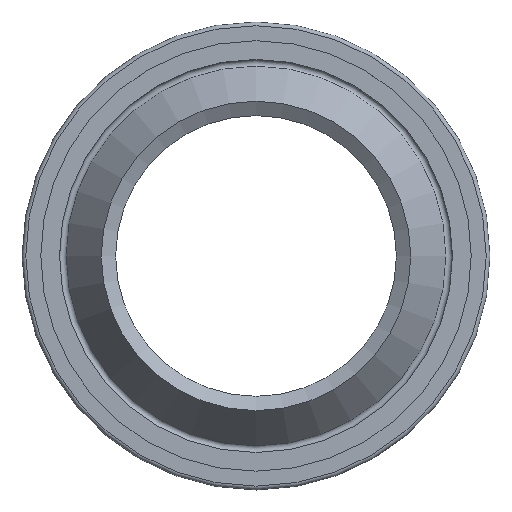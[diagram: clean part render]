
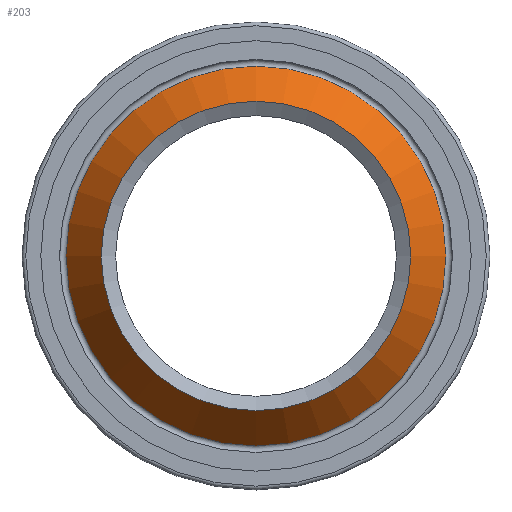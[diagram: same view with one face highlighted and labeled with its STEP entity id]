
A CAD part, top view. The second image highlights one B-rep face of the part: STEP entity #203.
In plain terms, the highlighted conical face has half-angle 37.569 degrees and reference radius 9.385 mm.
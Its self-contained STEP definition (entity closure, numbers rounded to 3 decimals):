
#15=CONICAL_SURFACE('',#252,9.385,0.656);
#27=LINE('',#376,#35);
#35=VECTOR('',#308,9.385);
#51=FACE_OUTER_BOUND('',#68,.T.);
#68=EDGE_LOOP('',(#159,#160,#161,#162));
#86=CIRCLE('',#249,10.141);
#89=CIRCLE('',#253,8.269);
#103=VERTEX_POINT('',#369);
#105=VERTEX_POINT('',#375);
#121=EDGE_CURVE('',#103,#103,#86,.T.);
#124=EDGE_CURVE('',#103,#105,#27,.T.);
#125=EDGE_CURVE('',#105,#105,#89,.T.);
#159=ORIENTED_EDGE('',*,*,#121,.F.);
#160=ORIENTED_EDGE('',*,*,#124,.T.);
#161=ORIENTED_EDGE('',*,*,#125,.T.);
#162=ORIENTED_EDGE('',*,*,#124,.F.);
#203=ADVANCED_FACE('',(#51),#15,.T.);
#249=AXIS2_PLACEMENT_3D('',#370,#300,#301);
#252=AXIS2_PLACEMENT_3D('',#374,#306,#307);
#253=AXIS2_PLACEMENT_3D('',#377,#309,#310);
#300=DIRECTION('center_axis',(0.,0.,-1.));
#301=DIRECTION('ref_axis',(1.,0.,0.));
#306=DIRECTION('center_axis',(0.,0.,-1.));
#307=DIRECTION('ref_axis',(-1.,0.,0.));
#308=DIRECTION('',(-0.61,0.,0.793));
#309=DIRECTION('center_axis',(0.,0.,-1.));
#310=DIRECTION('ref_axis',(-1.,0.,0.));
#369=CARTESIAN_POINT('',(10.141,0.,-3.034));
#370=CARTESIAN_POINT('Origin',(0.,0.,-3.034));
#374=CARTESIAN_POINT('Origin',(0.,0.,-2.05));
#375=CARTESIAN_POINT('',(8.269,0.,-0.6));
#376=CARTESIAN_POINT('',(9.385,0.,-2.05));
#377=CARTESIAN_POINT('Origin',(0.,0.,-0.6));
